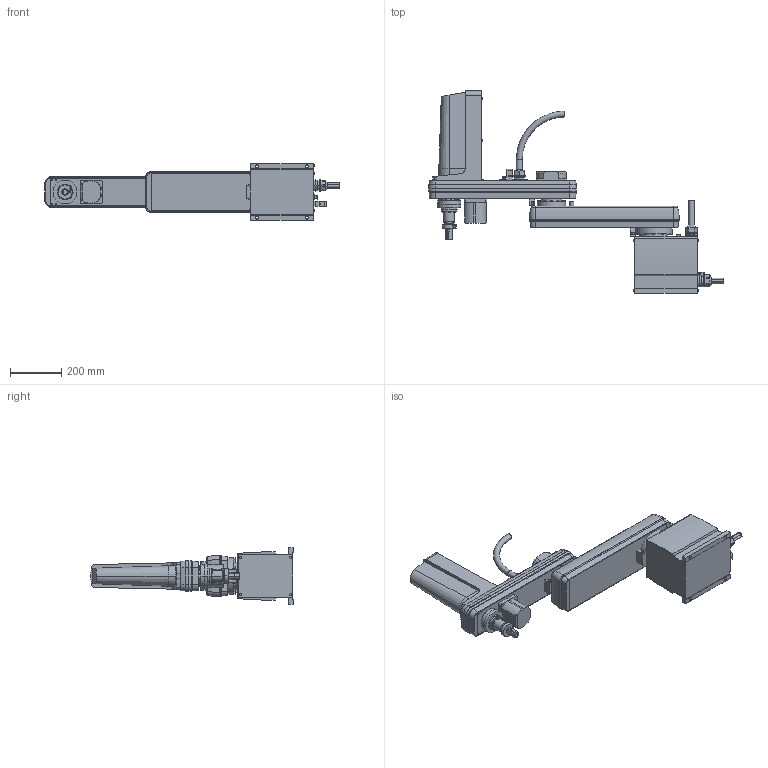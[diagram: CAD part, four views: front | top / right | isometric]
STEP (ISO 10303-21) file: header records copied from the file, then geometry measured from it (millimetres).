
FILE_DESCRIPTION( ( '' ), '1' );
FILE_NAME( 'd:/yamaha_export/yk_xg_series/yk800xg_200.stp', '2010-03-03T06:06:52', ( '' ), ( '' ), ' ', ' ', ' ' );
FILE_SCHEMA( ( 'CONFIG_CONTROL_DESIGN' ) );
Length unit declared in the file: millimetre
Products named in the file (4): 1; 2; 3; 4
Bounding box: 1151.58 x 790 x 220 mm (x, y, z)
Volume: 29324758.7 mm3; surface area: 1272003.9 mm2
Topology: 4 solids, 4 shells, 1149 faces, 2754 edges, 1751 vertices
Faces by surface type: plane 476, cylinder 453, cone 178, torus 42
Entity records: 33999 total; most frequent: CARTESIAN_POINT 6600, DIRECTION 6053, ORIENTED_EDGE 5488, EDGE_CURVE 2744, AXIS2_PLACEMENT_3D 2394, VERTEX_POINT 1751, EDGE_LOOP 1333, LINE 1265
